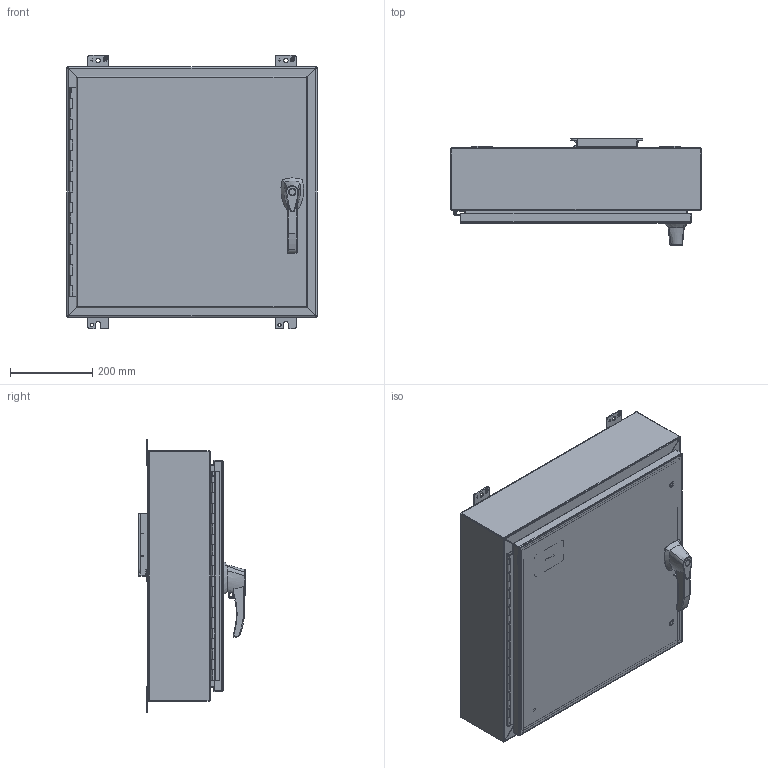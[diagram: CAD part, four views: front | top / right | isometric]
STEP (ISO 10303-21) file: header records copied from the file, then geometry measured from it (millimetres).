
FILE_DESCRIPTION(/* description */ ('Unknown'),/* implementation_level */ '2;1');
FILE_NAME(/* name */ 'HW24246SSHK',/* time_stamp */ '2018-12-04T15:27:41-05:00',/* author */ ('Unknown'),/* organization */ ('Unknown'),/* preprocessor_version */ 'ST-DEVELOPER v16.7',/* originating_system */ 'DEX',/* authorisation */ $);
FILE_SCHEMA (('AUTOMOTIVE_DESIGN {1 0 10303 214 3 1 1}'));
Length unit declared in the file: millimetre
Products named in the file (38): HW24246SSHK; FET07720; HNG10620-20P; STD26258; STD26089; COM55369; COM70653-3; HNG10620-20C; STD26078; COM70663; SCS86714; ROL87452; HAN86294; HAN86294_SCREW; HAN86294_NUT; HAN86294_WASHER; HAN_NUT; SCS86713; KIT90518; WAF25059; NTS166105; LAB30005; LOC13320; COM70220_oa_0; QLB20184; KIT90256; NTS165305; NTS16535; BUL10020; PKT66; HNG10620-20B; WAM30029; NTS16699; HAN13068_NUT; COM70664-1
Assembly tree (55 placements, depth 3):
  HW24246SSHK
    FET07720  x4
    HNG10620-20P
    STD26258
    STD26089  x4
    COM55369
    COM70653-3
      HNG10620-20C
      STD26078  x2
      COM70653-3
      STD26258
    COM70663  x3
      SCS86714
      ROL87452
      COM70663
    HAN86294
      HAN86294
      HAN86294_SCREW
      HAN86294_NUT
      HAN86294_WASHER  x2
      HAN_NUT
    SCS86713  x3
    KIT90518
      WAF25059
      NTS166105
      LAB30005
    LOC13320  x2
    COM70220_oa_0
    QLB20184
    KIT90256
      LAB30005
      NTS165305
      NTS16535
    BUL10020
    PKT66
    HNG10620-20B
    WAM30029  x3
    NTS16699  x2
    HAN13068_NUT
    COM70664-1
Bounding box: 609.6 x 259.08 x 666.75 mm (x, y, z)
Volume: 2836448.7 mm3; surface area: 2865281.2 mm2
Topology: 51 solids, 52 shells, 1600 faces, 4169 edges, 2730 vertices
Faces by surface type: plane 1001, cylinder 354, bspline 180, cone 37, torus 24, sphere 4
Full cylindrical faces by diameter (mm): 4.47 x6, 4.763 x1, 4.976 x3, 5.893 x1, 5.918 x1, 6.35 x14, 6.502 x2, 6.731 x3, 7.805 x1, 7.938 x11, 8.001 x2, 8.128 x1, 8.255 x1, 8.382 x2, 8.433 x4, 8.484 x1, 8.89 x2, 9.525 x11, 10.008 x2, 10.49 x3, 11.049 x2, 11.113 x4, 11.303 x1, 11.989 x2, 12.954 x3, 13.335 x1, 15.24 x1, 15.824 x2, 16.002 x2, 16.51 x4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
Entity records: 42071 total; most frequent: CARTESIAN_POINT 13372, ORIENTED_EDGE 5866, DIRECTION 5071, EDGE_CURVE 2933, VERTEX_POINT 1931, LINE 1833, VECTOR 1833, AXIS2_PLACEMENT_3D 1619
